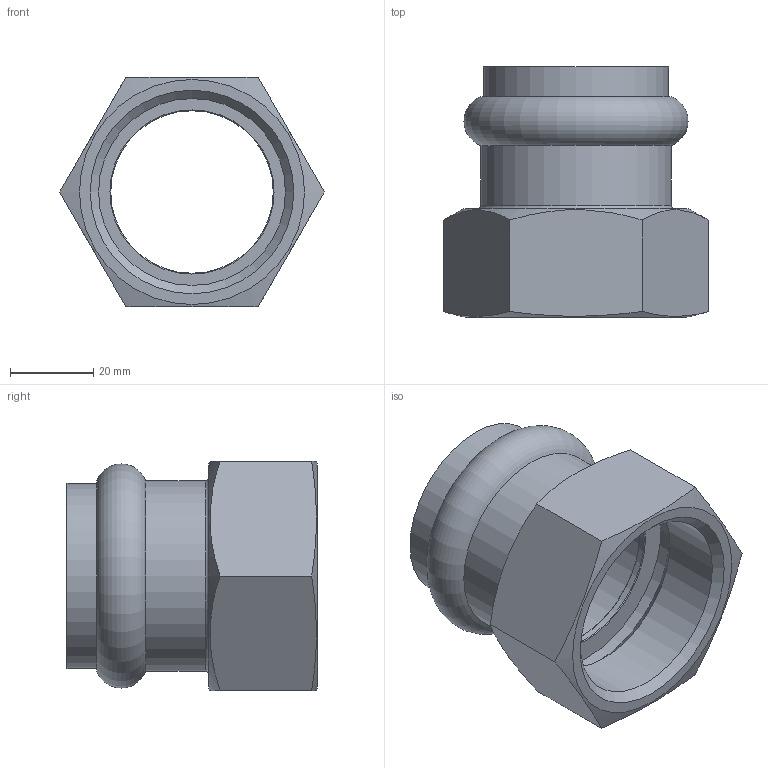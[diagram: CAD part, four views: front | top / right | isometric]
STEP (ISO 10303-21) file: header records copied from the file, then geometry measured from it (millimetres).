
FILE_DESCRIPTION(/* description */ (''),/* implementation_level */ '2;1');
FILE_NAME(/* name */ 'C:\Users\Vault\Desktop\Articoli_INOXPRES UNIKO\190_INOXPRES_UNIKO\190112042U_Inoxpres_Uniko.stp',/* time_stamp */ '2022-10-06T11:34:05+02:00',/* author */ ('Vault'),/* organization */ ('Raccorderie metalliche s.p.a. '),/* preprocessor_version */ 'ST-DEVELOPER v18.1',/* originating_system */ 'Autodesk Inventor 2020',/* authorisation */ 'Raccorderie metalliche s.p.a. ');
FILE_SCHEMA (('AUTOMOTIVE_DESIGN { 1 0 10303 214 3 1 1 }'));
Length unit declared in the file: millimetre
Products named in the file (1): 190112042V_Inoxpres_Uniko
Bounding box: 63.51 x 60 x 55 mm (x, y, z)
Volume: 37450.3 mm3; surface area: 21799.1 mm2
Topology: 1 solids, 1 shells, 31 faces, 83 edges, 58 vertices
Faces by surface type: plane 12, cone 8, cylinder 7, torus 4
Full cylindrical faces by diameter (mm): 39 x1, 42.6 x2, 44.4 x1, 44.845 x1, 45.6 x1, 50 x1
Entity records: 1040 total; most frequent: CARTESIAN_POINT 201, DIRECTION 181, ORIENTED_EDGE 166, EDGE_CURVE 83, AXIS2_PLACEMENT_3D 80, VERTEX_POINT 58, CIRCLE 48, EDGE_LOOP 37
